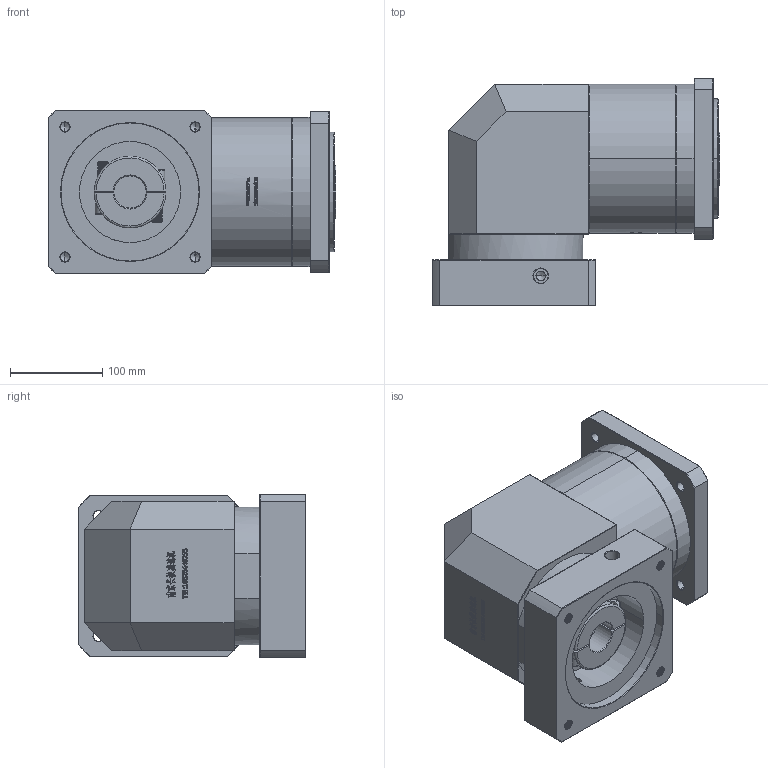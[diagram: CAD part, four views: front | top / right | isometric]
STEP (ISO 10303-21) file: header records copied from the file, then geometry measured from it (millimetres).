
FILE_DESCRIPTION (( 'STEP AP214' ), '1' );
FILE_NAME ('ZFR160A-K35-L2-35-150-200-M12.step', '2023-03-22T11:49:03', ( '' ), ( '' ), 'SwSTEP 2.0', 'SolidWorks 2016', '' );
FILE_SCHEMA (( 'AUTOMOTIVE_DESIGN' ));
Length unit declared in the file: millimetre
Products named in the file (1): ZFR160A-K35-L2-35-150-200-M12
Bounding box: 312.7 x 247.5 x 178 mm (x, y, z)
Volume: 7690369.8 mm3; surface area: 482687.2 mm2
Topology: 6 solids, 6 shells, 2442 faces, 6432 edges, 4143 vertices
Faces by surface type: plane 1266, bspline 490, cylinder 364, cone 302, torus 20
Entity records: 135321 total; most frequent: CARTESIAN_POINT 52207, ORIENTED_EDGE 12808, DIRECTION 9772, EDGE_CURVE 6404, VERTEX_POINT 4143, VECTOR 4086, LINE 4086, AXIS2_PLACEMENT_3D 2843
